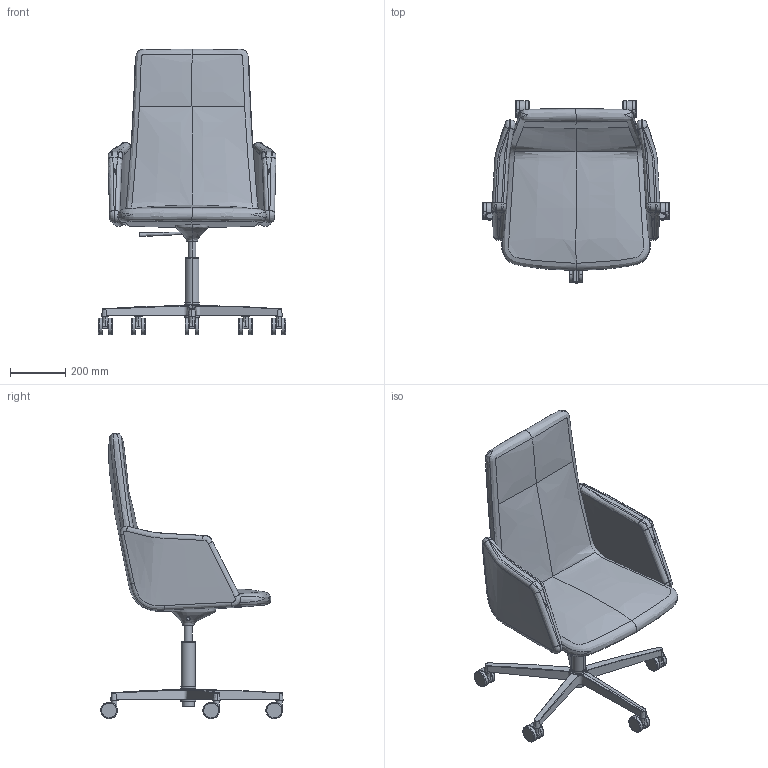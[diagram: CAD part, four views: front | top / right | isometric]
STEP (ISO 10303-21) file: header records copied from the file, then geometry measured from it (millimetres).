
FILE_DESCRIPTION(/* description */ (''),/* implementation_level */ '2;1');
FILE_NAME(/* name */ 'HA0AF0~1',/* time_stamp */ '2016-07-26T15:23:13+02:00',/* author */ (''),/* organization */ (''),/* preprocessor_version */ 'ST-DEVELOPER v15',/* originating_system */ '',/* authorisation */ '');
FILE_SCHEMA (('CONFIG_CONTROL_DESIGN'));
Length unit declared in the file: millimetre
Products named in the file (1): Document
Bounding box: 677.7 x 659.54 x 1032.31 mm (x, y, z)
Volume: 188724.9 mm3; surface area: 1872016.3 mm2
Topology: 5 solids, 35 shells, 229 faces, 515 edges, 327 vertices
Faces by surface type: bspline 194, plane 35
Entity records: 23148 total; most frequent: CARTESIAN_POINT 20079, ORIENTED_EDGE 903, EDGE_CURVE 512, VERTEX_POINT 321, B_SPLINE_CURVE_WITH_KNOTS 265, EDGE_LOOP 231, ADVANCED_FACE 229, FACE_OUTER_BOUND 229
